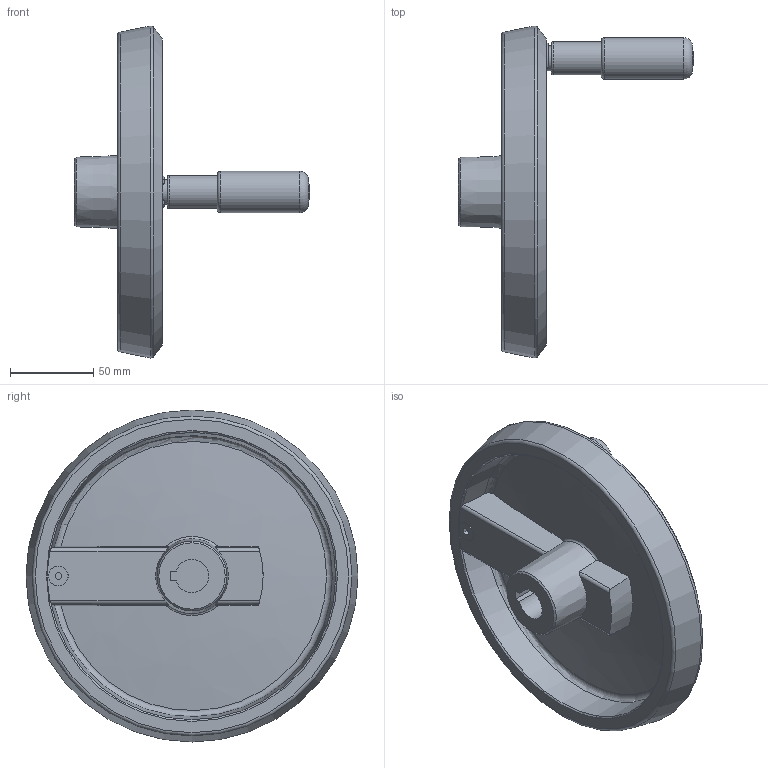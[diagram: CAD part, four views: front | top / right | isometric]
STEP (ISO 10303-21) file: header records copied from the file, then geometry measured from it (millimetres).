
FILE_DESCRIPTION( ( 'STEP AP203' ), '1' );
FILE_NAME( 'C:/Temp/Ganter_Step_05_03_2020/data/1_3/gn_923_7/gn_923_7_k/Handwheel with retractable handle GN 923.7-200-K20-R-SW (activated).stp', '2020-03-05T10:40:40', ( 'License CC BY-ND 4.0' ), ( 'CADENAS' ), ' ', 'PARTsolutions', ' ' );
FILE_SCHEMA( ( 'CONFIG_CONTROL_DESIGN' ) );
Length unit declared in the file: millimetre
Products named in the file (3): Handwheel with retractable handle GN 923.7-200-K20-R-SW (activated); _Umleggriff-Handrad GN 923.7-200-K20-R-SW-1; _Umleggriff-Handrad GN 923.7-200-K20-R-SW (90)-2
Assembly tree (2 placements, depth 2):
  Handwheel with retractable handle GN 923.7-200-K20-R-SW (activated)
    _Umleggriff-Handrad GN 923.7-200-K20-R-SW-1
    _Umleggriff-Handrad GN 923.7-200-K20-R-SW (90)-2
Bounding box: 141.7 x 200 x 200 mm (x, y, z)
Volume: 402448.4 mm3; surface area: 109119.2 mm2
Topology: 2 solids, 2 shells, 112 faces, 275 edges, 175 vertices
Faces by surface type: plane 47, cylinder 29, cone 14, torus 14, bspline 6, sphere 2
Full cylindrical faces by diameter (mm): 4 x2, 5 x1, 8 x1, 12 x1, 15 x1, 20 x2, 23 x1, 25 x1
Entity records: 3677 total; most frequent: CARTESIAN_POINT 1093, DIRECTION 515, ORIENTED_EDGE 484, EDGE_CURVE 242, AXIS2_PLACEMENT_3D 214, VERTEX_POINT 170, EDGE_LOOP 149, FACE_OUTER_BOUND 129
